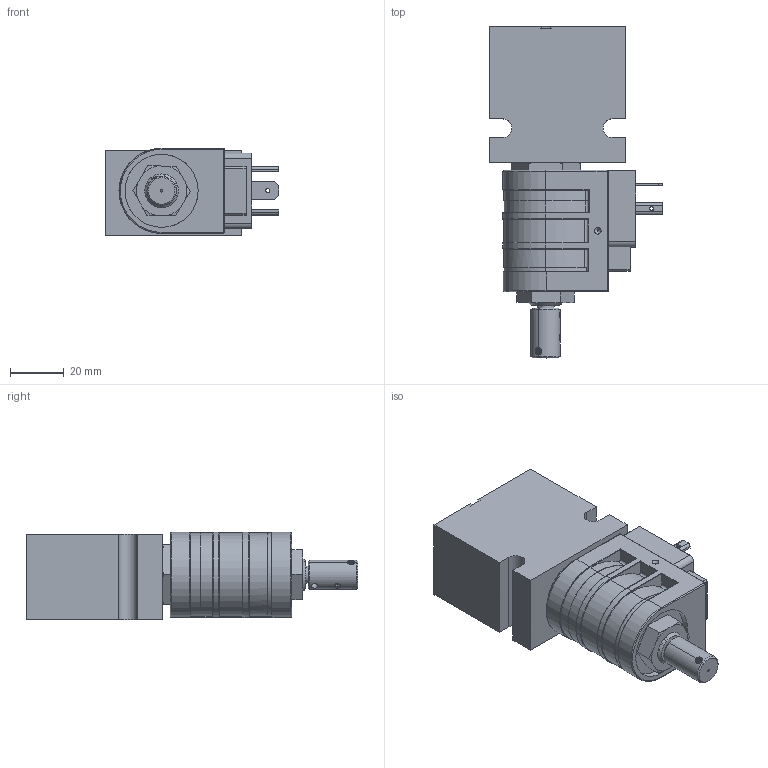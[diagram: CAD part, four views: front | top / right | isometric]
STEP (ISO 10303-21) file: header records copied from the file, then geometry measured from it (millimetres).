
FILE_DESCRIPTION( ( 'Unknown' ), '1' );
FILE_NAME( 'G:/Graphic Design/Graphic Design 2/Data Sheets/SOLENOID OPERATED VALVES/4_STEP/2W2P Normally Closed/PB-S2A00-B2.stp', 'Unknown', ( 'Unknown' ), ( 'Unknown' ), 'PSStep 15.0.49', 'Unknown', ' ' );
FILE_SCHEMA( ( 'AUTOMOTIVE_DESIGN { 1 0 10303 214 1 1 1 1 }' ) );
Length unit declared in the file: millimetre
Products named in the file (15): D-PHC12; PHC_Body; PHC_Disc; PHC_HirschThread; PT-EL-HC-TerminalConnectors; D-PB-S2A-0M-Delta; PBS2A0M-3D Full1; PBS2A0M-3D Full2; PBS2A0M-3D Full3; PBS2A0M-3D Full5; PBS2A0M-3D Full4; Delta_1_2_nut1 - Copy; Assem1; B-DPBB2
Assembly tree (15 placements, depth 3):
  Assem1
    B-DPBB2
    D-PB-S2A-0M-Delta
      PBS2A0M-3D Full1
      PBS2A0M-3D Full2
      PBS2A0M-3D Full3
      PBS2A0M-3D Full5
      PBS2A0M-3D Full4
      PBS2A0M-3D Full4
      Delta_1_2_nut1 - Copy
    D-PHC12
      PHC_Body
      PHC_Disc  x2
      PHC_HirschThread
      PT-EL-HC-TerminalConnectors
Bounding box: 64.59 x 123.44 x 32.62 mm (x, y, z)
Surface area: 39565 mm2 (no closed solid volume)
Topology: 0 solids, 634 shells, 634 faces, 2934 edges, 2847 vertices
Faces by surface type: cone 232, cylinder 191, plane 175, torus 30, sphere 6
Full cylindrical faces by diameter (mm): 0.2 x2, 0.5 x2, 1 x1, 1.5 x3, 4 x2, 9.906 x1, 10.5 x1, 11 x1, 12.598 x1, 12.7 x1, 13 x1, 13.05 x2, 14 x1, 15 x4, 17.33 x2, 24.2 x2, 27.18 x4
Entity records: 39248 total; most frequent: CARTESIAN_POINT 13702, DIRECTION 4450, VERTEX_POINT 2818, ORIENTED_EDGE 2816, EDGE_CURVE 2816, AXIS2_PLACEMENT_3D 1686, LINE 1078, VECTOR 1078
